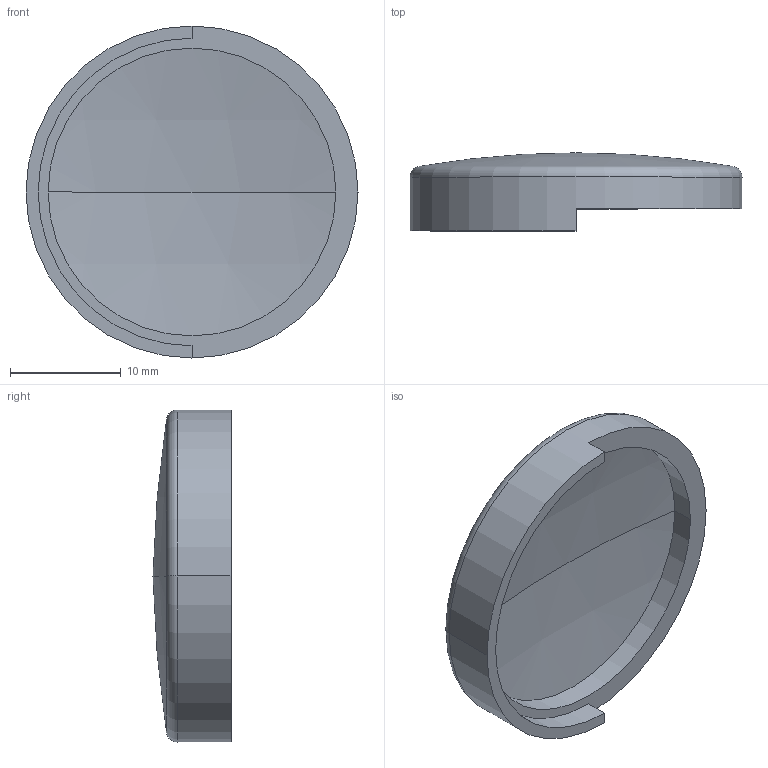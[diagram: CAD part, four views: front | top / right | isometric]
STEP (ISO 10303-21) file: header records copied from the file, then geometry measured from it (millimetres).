
FILE_DESCRIPTION (( 'STEP AP214' ), '1' );
FILE_NAME ('G_6_UP.STEP', '2016-02-27T15:47:12', ( '' ), ( '' ), 'SwSTEP 2.0', 'SolidWorks 2012', '' );
FILE_SCHEMA (( 'AUTOMOTIVE_DESIGN' ));
Length unit declared in the file: millimetre
Products named in the file (1): G_6_UP
Bounding box: 30 x 7.05 x 30 mm (x, y, z)
Volume: 1833.5 mm3; surface area: 2092.7 mm2
Topology: 1 solids, 1 shells, 15 faces, 32 edges, 20 vertices
Faces by surface type: cylinder 5, sphere 4, plane 4, torus 2
Entity records: 448 total; most frequent: DIRECTION 84, CARTESIAN_POINT 68, ORIENTED_EDGE 64, AXIS2_PLACEMENT_3D 36, EDGE_CURVE 32, CIRCLE 20, VERTEX_POINT 20, EDGE_LOOP 16
